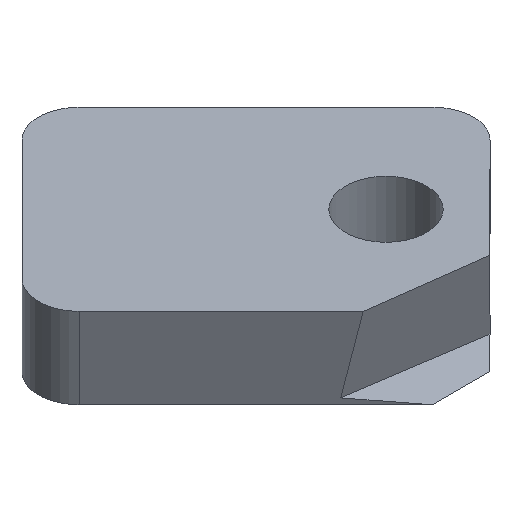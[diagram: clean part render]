
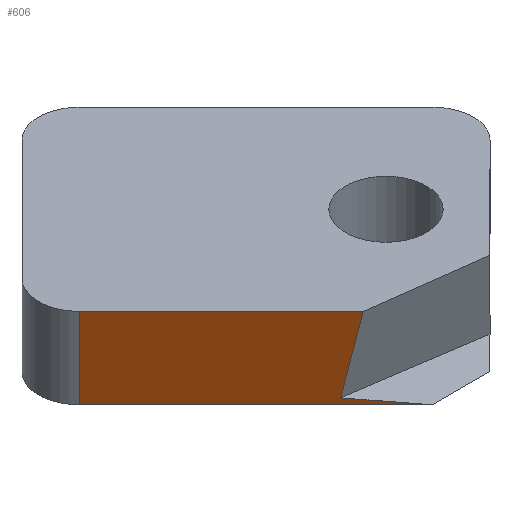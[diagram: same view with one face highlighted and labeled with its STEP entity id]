
A CAD part, isometric view. The second image highlights one B-rep face of the part: STEP entity #606.
In plain terms, the highlighted planar face has unit normal (-0.707, -0.707, 0).
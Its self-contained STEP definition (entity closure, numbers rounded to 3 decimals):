
#44 = CYLINDRICAL_SURFACE('',#45,1.1);
#45 = AXIS2_PLACEMENT_3D('',#46,#47,#48);
#46 = CARTESIAN_POINT('',(14.92,23.827,-7.15));
#47 = DIRECTION('',(0.,0.,-1.));
#48 = DIRECTION('',(0.707,-0.707,0.));
#72 = PLANE('',#73);
#73 = AXIS2_PLACEMENT_3D('',#74,#75,#76);
#74 = CARTESIAN_POINT('',(18.95,23.05,-4.95));
#75 = DIRECTION('',(0.,0.,1.));
#76 = DIRECTION('',(0.707,-0.707,0.));
#126 = PLANE('',#127);
#127 = AXIS2_PLACEMENT_3D('',#128,#129,#130);
#128 = CARTESIAN_POINT('',(18.95,23.05,-7.15));
#129 = DIRECTION('',(0.,0.,1.));
#130 = DIRECTION('',(0.707,-0.707,0.));
#143 = VERTEX_POINT('',#144);
#144 = CARTESIAN_POINT('',(14.142,23.05,-4.95));
#166 = EDGE_CURVE('',#167,#143,#169,.T.);
#167 = VERTEX_POINT('',#168);
#168 = CARTESIAN_POINT('',(14.142,23.05,-7.15));
#169 = SURFACE_CURVE('',#170,(#174,#181),.PCURVE_S1.);
#170 = LINE('',#171,#172);
#171 = CARTESIAN_POINT('',(14.142,23.05,-7.15));
#172 = VECTOR('',#173,1.);
#173 = DIRECTION('',(0.,0.,1.));
#174 = PCURVE('',#44,#175);
#175 = DEFINITIONAL_REPRESENTATION('',(#176),#180);
#176 = LINE('',#177,#178);
#177 = CARTESIAN_POINT('',(-4.712,0.));
#178 = VECTOR('',#179,1.);
#179 = DIRECTION('',(-0.,-1.));
#180 = ( GEOMETRIC_REPRESENTATION_CONTEXT(2) 
PARAMETRIC_REPRESENTATION_CONTEXT() REPRESENTATION_CONTEXT('2D SPACE',''
  ) );
#181 = PCURVE('',#182,#187);
#182 = PLANE('',#183);
#183 = AXIS2_PLACEMENT_3D('',#184,#185,#186);
#184 = CARTESIAN_POINT('',(14.142,23.05,-7.15));
#185 = DIRECTION('',(0.707,0.707,0.));
#186 = DIRECTION('',(0.707,-0.707,0.));
#187 = DEFINITIONAL_REPRESENTATION('',(#188),#192);
#188 = LINE('',#189,#190);
#189 = CARTESIAN_POINT('',(0.,0.));
#190 = VECTOR('',#191,1.);
#191 = DIRECTION('',(0.,-1.));
#192 = ( GEOMETRIC_REPRESENTATION_CONTEXT(2) 
PARAMETRIC_REPRESENTATION_CONTEXT() REPRESENTATION_CONTEXT('2D SPACE',''
  ) );
#299 = EDGE_CURVE('',#167,#300,#302,.T.);
#300 = VERTEX_POINT('',#301);
#301 = CARTESIAN_POINT('',(18.947,18.245,-7.15));
#302 = SURFACE_CURVE('',#303,(#307,#314),.PCURVE_S1.);
#303 = LINE('',#304,#305);
#304 = CARTESIAN_POINT('',(16.546,20.645,-7.15));
#305 = VECTOR('',#306,1.);
#306 = DIRECTION('',(0.707,-0.707,0.));
#307 = PCURVE('',#126,#308);
#308 = DEFINITIONAL_REPRESENTATION('',(#309),#313);
#309 = LINE('',#310,#311);
#310 = CARTESIAN_POINT('',(0.,-3.4));
#311 = VECTOR('',#312,1.);
#312 = DIRECTION('',(1.,0.));
#313 = ( GEOMETRIC_REPRESENTATION_CONTEXT(2) 
PARAMETRIC_REPRESENTATION_CONTEXT() REPRESENTATION_CONTEXT('2D SPACE',''
  ) );
#314 = PCURVE('',#182,#315);
#315 = DEFINITIONAL_REPRESENTATION('',(#316),#320);
#316 = LINE('',#317,#318);
#317 = CARTESIAN_POINT('',(3.4,0.));
#318 = VECTOR('',#319,1.);
#319 = DIRECTION('',(1.,0.));
#320 = ( GEOMETRIC_REPRESENTATION_CONTEXT(2) 
PARAMETRIC_REPRESENTATION_CONTEXT() REPRESENTATION_CONTEXT('2D SPACE',''
  ) );
#337 = PLANE('',#338);
#338 = AXIS2_PLACEMENT_3D('',#339,#340,#341);
#339 = CARTESIAN_POINT('',(-35.612,-54.366,
    -16.58));
#340 = DIRECTION('',(0.,-0.129,0.992));
#341 = DIRECTION('',(0.991,-0.129,-0.017)
  );
#463 = EDGE_CURVE('',#143,#464,#466,.T.);
#464 = VERTEX_POINT('',#465);
#465 = CARTESIAN_POINT('',(18.004,19.187,-4.95));
#466 = SURFACE_CURVE('',#467,(#471,#478),.PCURVE_S1.);
#467 = LINE('',#468,#469);
#468 = CARTESIAN_POINT('',(16.546,20.645,-4.95));
#469 = VECTOR('',#470,1.);
#470 = DIRECTION('',(0.707,-0.707,0.));
#471 = PCURVE('',#72,#472);
#472 = DEFINITIONAL_REPRESENTATION('',(#473),#477);
#473 = LINE('',#474,#475);
#474 = CARTESIAN_POINT('',(0.,-3.4));
#475 = VECTOR('',#476,1.);
#476 = DIRECTION('',(1.,0.));
#477 = ( GEOMETRIC_REPRESENTATION_CONTEXT(2) 
PARAMETRIC_REPRESENTATION_CONTEXT() REPRESENTATION_CONTEXT('2D SPACE',''
  ) );
#478 = PCURVE('',#182,#479);
#479 = DEFINITIONAL_REPRESENTATION('',(#480),#484);
#480 = LINE('',#481,#482);
#481 = CARTESIAN_POINT('',(3.4,-2.2));
#482 = VECTOR('',#483,1.);
#483 = DIRECTION('',(1.,0.));
#484 = ( GEOMETRIC_REPRESENTATION_CONTEXT(2) 
PARAMETRIC_REPRESENTATION_CONTEXT() REPRESENTATION_CONTEXT('2D SPACE',''
  ) );
#501 = PLANE('',#502);
#502 = AXIS2_PLACEMENT_3D('',#503,#504,#505);
#503 = CARTESIAN_POINT('',(-25.065,25.076,
    -6.263));
#504 = DIRECTION('',(0.131,0.983,0.128));
#505 = DIRECTION('',(0.,-0.129,0.992)
  );
#606 = ADVANCED_FACE('',(#607),#182,.F.);
#607 = FACE_BOUND('',#608,.F.);
#608 = EDGE_LOOP('',(#609,#610,#611,#612,#633));
#609 = ORIENTED_EDGE('',*,*,#299,.F.);
#610 = ORIENTED_EDGE('',*,*,#166,.T.);
#611 = ORIENTED_EDGE('',*,*,#463,.T.);
#612 = ORIENTED_EDGE('',*,*,#613,.F.);
#613 = EDGE_CURVE('',#614,#464,#616,.T.);
#614 = VERTEX_POINT('',#615);
#615 = CARTESIAN_POINT('',(17.699,19.493,
    -6.988));
#616 = SURFACE_CURVE('',#617,(#621,#627),.PCURVE_S1.);
#617 = LINE('',#618,#619);
#618 = CARTESIAN_POINT('',(17.144,20.048,
    -10.693));
#619 = VECTOR('',#620,1.);
#620 = DIRECTION('',(0.147,-0.147,0.978));
#621 = PCURVE('',#182,#622);
#622 = DEFINITIONAL_REPRESENTATION('',(#623),#626);
#623 = B_SPLINE_CURVE_WITH_KNOTS('',1,(#624,#625),.UNSPECIFIED.,.F.,.F.,
  (2,2),(3.787,5.87),.PIECEWISE_BEZIER_KNOTS.);
#624 = CARTESIAN_POINT('',(5.03,-0.162));
#625 = CARTESIAN_POINT('',(5.462,-2.2));
#626 = ( GEOMETRIC_REPRESENTATION_CONTEXT(2) 
PARAMETRIC_REPRESENTATION_CONTEXT() REPRESENTATION_CONTEXT('2D SPACE',''
  ) );
#627 = PCURVE('',#501,#628);
#628 = DEFINITIONAL_REPRESENTATION('',(#629),#632);
#629 = B_SPLINE_CURVE_WITH_KNOTS('',1,(#630,#631),.UNSPECIFIED.,.F.,.F.,
  (2,2),(3.787,5.87),.PIECEWISE_BEZIER_KNOTS.);
#630 = CARTESIAN_POINT('',(0.,43.133));
#631 = CARTESIAN_POINT('',(2.06,43.441));
#632 = ( GEOMETRIC_REPRESENTATION_CONTEXT(2) 
PARAMETRIC_REPRESENTATION_CONTEXT() REPRESENTATION_CONTEXT('2D SPACE',''
  ) );
#633 = ORIENTED_EDGE('',*,*,#634,.T.);
#634 = EDGE_CURVE('',#614,#300,#635,.T.);
#635 = SURFACE_CURVE('',#636,(#640,#646),.PCURVE_S1.);
#636 = LINE('',#637,#638);
#637 = CARTESIAN_POINT('',(21.343,15.848,
    -7.461));
#638 = VECTOR('',#639,1.);
#639 = DIRECTION('',(0.704,-0.704,-0.091)
  );
#640 = PCURVE('',#182,#641);
#641 = DEFINITIONAL_REPRESENTATION('',(#642),#645);
#642 = B_SPLINE_CURVE_WITH_KNOTS('',1,(#643,#644),.UNSPECIFIED.,.F.,.F.,
  (2,2),(-5.176,-3.403),.PIECEWISE_BEZIER_KNOTS.);
#643 = CARTESIAN_POINT('',(5.03,-0.162));
#644 = CARTESIAN_POINT('',(6.795,0.));
#645 = ( GEOMETRIC_REPRESENTATION_CONTEXT(2) 
PARAMETRIC_REPRESENTATION_CONTEXT() REPRESENTATION_CONTEXT('2D SPACE',''
  ) );
#646 = PCURVE('',#337,#647);
#647 = DEFINITIONAL_REPRESENTATION('',(#648),#651);
#648 = B_SPLINE_CURVE_WITH_KNOTS('',1,(#649,#650),.UNSPECIFIED.,.F.,.F.,
  (2,2),(-5.176,-3.403),.PIECEWISE_BEZIER_KNOTS.);
#649 = CARTESIAN_POINT('',(43.133,80.8));
#650 = CARTESIAN_POINT('',(44.535,79.715));
#651 = ( GEOMETRIC_REPRESENTATION_CONTEXT(2) 
PARAMETRIC_REPRESENTATION_CONTEXT() REPRESENTATION_CONTEXT('2D SPACE',''
  ) );
